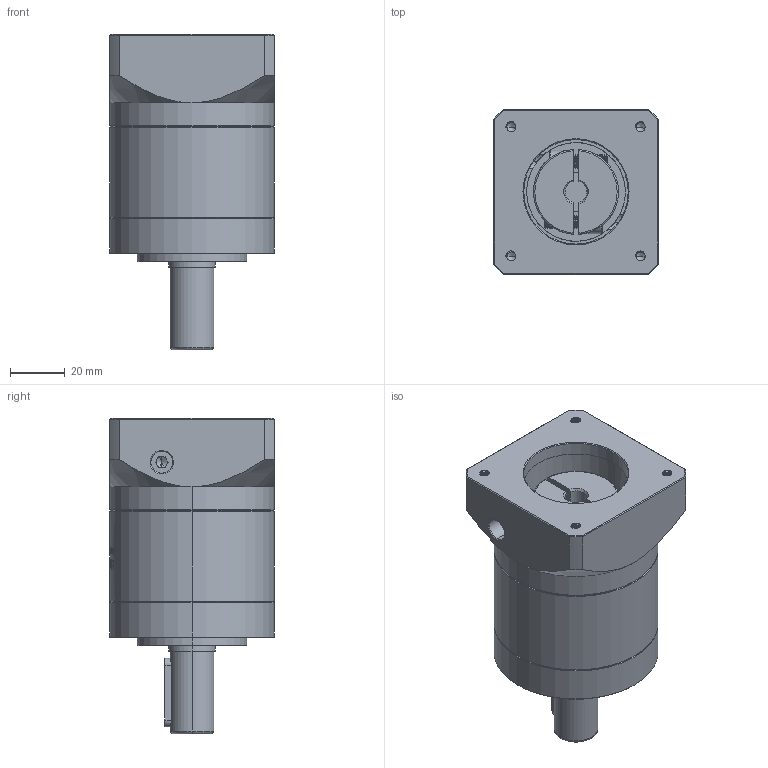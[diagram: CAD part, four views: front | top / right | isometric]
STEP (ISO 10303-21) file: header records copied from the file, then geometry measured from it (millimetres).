
FILE_DESCRIPTION (( 'STEP AP214' ), '1' );
FILE_NAME ('ZE060-D16-L1-P2-8-38.1-47.14X47.14-M4.step', '2023-08-17T02:06:01', ( '' ), ( '' ), 'SwSTEP 2.0', 'SolidWorks 2016', '' );
FILE_SCHEMA (( 'AUTOMOTIVE_DESIGN' ));
Length unit declared in the file: millimetre
Products named in the file (1): ZE060-D16-L1-P2-8-38.1-47.14X47.14-M4
Bounding box: 60 x 60 x 115 mm (x, y, z)
Volume: 219620.7 mm3; surface area: 42797.7 mm2
Topology: 6 solids, 6 shells, 1809 faces, 4932 edges, 3202 vertices
Faces by surface type: plane 782, cylinder 428, bspline 366, cone 215, torus 18
Entity records: 106829 total; most frequent: CARTESIAN_POINT 46080, ORIENTED_EDGE 9820, DIRECTION 6829, EDGE_CURVE 4910, VERTEX_POINT 3202, VECTOR 2449, LINE 2449, AXIS2_PLACEMENT_3D 2190
